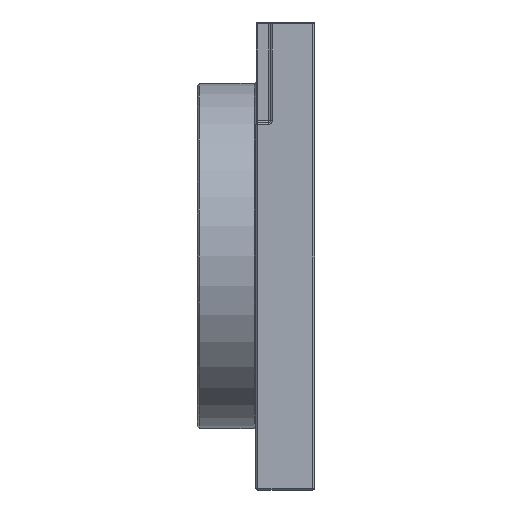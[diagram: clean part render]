
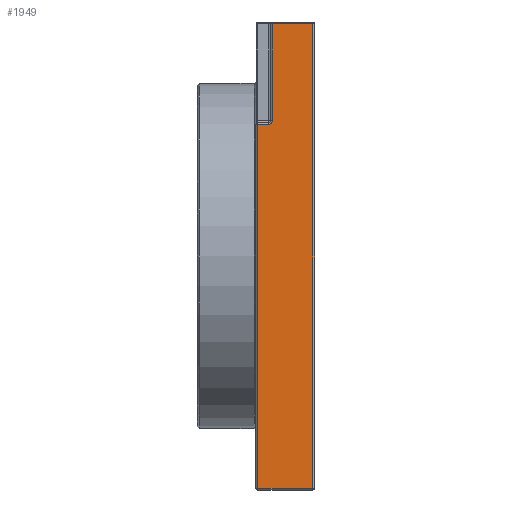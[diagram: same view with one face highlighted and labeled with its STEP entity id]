
A CAD part, left-side view. The second image highlights one B-rep face of the part: STEP entity #1949.
In plain terms, the highlighted planar face has unit normal (-1, 0, 0).
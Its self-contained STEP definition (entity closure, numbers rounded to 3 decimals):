
#82 = VERTEX_POINT ( 'NONE', #2339 ) ;
#131 = DIRECTION ( 'NONE',  ( 0., 1., 0. ) ) ;
#217 = EDGE_CURVE ( 'NONE', #2127, #4125, #434, .T. ) ;
#241 = EDGE_CURVE ( 'NONE', #3980, #1296, #790, .T. ) ;
#355 = VECTOR ( 'NONE', #3053, 1000. ) ;
#397 = FACE_OUTER_BOUND ( 'NONE', #2026, .T. ) ;
#434 = CIRCLE ( 'NONE', #2298, 0.6 ) ;
#438 = CARTESIAN_POINT ( 'NONE',  ( -40., 7.2, 39.7 ) ) ;
#631 = LINE ( 'NONE', #1731, #355 ) ;
#640 = CARTESIAN_POINT ( 'NONE',  ( -40., 9.7, -40. ) ) ;
#790 = LINE ( 'NONE', #3108, #2744 ) ;
#797 = DIRECTION ( 'NONE',  ( 1., 0., 0. ) ) ;
#937 = VERTEX_POINT ( 'NONE', #2305 ) ;
#1018 = EDGE_CURVE ( 'NONE', #1296, #2590, #631, .T. ) ;
#1296 = VERTEX_POINT ( 'NONE', #3626 ) ;
#1301 = ORIENTED_EDGE ( 'NONE', *, *, #217, .F. ) ;
#1534 = EDGE_CURVE ( 'NONE', #937, #3980, #3880, .T. ) ;
#1584 = CARTESIAN_POINT ( 'NONE',  ( -40., 7.2, 23.133 ) ) ;
#1599 = CARTESIAN_POINT ( 'NONE',  ( -40., 10., 22.533 ) ) ;
#1642 = VECTOR ( 'NONE', #2090, 1000. ) ;
#1720 = CARTESIAN_POINT ( 'NONE',  ( -40., 7.2, 22.833 ) ) ;
#1731 = CARTESIAN_POINT ( 'NONE',  ( -40., 10., 39.7 ) ) ;
#1735 = VECTOR ( 'NONE', #131, 1000. ) ;
#1915 = ORIENTED_EDGE ( 'NONE', *, *, #3158, .T. ) ;
#1944 = EDGE_CURVE ( 'NONE', #2590, #4125, #2193, .T. ) ;
#1949 = ADVANCED_FACE ( 'NONE', ( #397 ), #3984, .F. ) ;
#1958 = ORIENTED_EDGE ( 'NONE', *, *, #241, .T. ) ;
#1968 = CARTESIAN_POINT ( 'NONE',  ( -40., 7.8, 22.533 ) ) ;
#2026 = EDGE_LOOP ( 'NONE', ( #2710, #2675, #1301, #3004, #1915, #3817, #1958 ) ) ;
#2090 = DIRECTION ( 'NONE',  ( 0., 0., -1. ) ) ;
#2127 = VERTEX_POINT ( 'NONE', #1968 ) ;
#2193 = LINE ( 'NONE', #1720, #1642 ) ;
#2298 = AXIS2_PLACEMENT_3D ( 'NONE', #2786, #4123, #3452 ) ;
#2305 = CARTESIAN_POINT ( 'NONE',  ( -40., 9.7, -39.7 ) ) ;
#2311 = LINE ( 'NONE', #1599, #1735 ) ;
#2339 = CARTESIAN_POINT ( 'NONE',  ( -40., 9.7, 22.533 ) ) ;
#2590 = VERTEX_POINT ( 'NONE', #438 ) ;
#2604 = CARTESIAN_POINT ( 'NONE',  ( -40., 0.3, -39.7 ) ) ;
#2675 = ORIENTED_EDGE ( 'NONE', *, *, #1944, .T. ) ;
#2710 = ORIENTED_EDGE ( 'NONE', *, *, #1018, .T. ) ;
#2744 = VECTOR ( 'NONE', #4195, 1000. ) ;
#2786 = CARTESIAN_POINT ( 'NONE',  ( -40., 7.8, 23.133 ) ) ;
#2787 = CARTESIAN_POINT ( 'NONE',  ( -40., 10., -40. ) ) ;
#2978 = VECTOR ( 'NONE', #3207, 1000. ) ;
#2990 = VECTOR ( 'NONE', #3808, 1000. ) ;
#3004 = ORIENTED_EDGE ( 'NONE', *, *, #4436, .T. ) ;
#3053 = DIRECTION ( 'NONE',  ( 0., 1., 0. ) ) ;
#3088 = LINE ( 'NONE', #640, #2990 ) ;
#3108 = CARTESIAN_POINT ( 'NONE',  ( -40., 0.3, -40. ) ) ;
#3158 = EDGE_CURVE ( 'NONE', #82, #937, #3088, .T. ) ;
#3207 = DIRECTION ( 'NONE',  ( 0., -1., 0. ) ) ;
#3452 = DIRECTION ( 'NONE',  ( 0., 0., -1. ) ) ;
#3626 = CARTESIAN_POINT ( 'NONE',  ( -40., 0.3, 39.7 ) ) ;
#3808 = DIRECTION ( 'NONE',  ( 0., 0., -1. ) ) ;
#3817 = ORIENTED_EDGE ( 'NONE', *, *, #1534, .T. ) ;
#3880 = LINE ( 'NONE', #4289, #2978 ) ;
#3980 = VERTEX_POINT ( 'NONE', #2604 ) ;
#3984 = PLANE ( 'NONE',  #4235 ) ;
#4123 = DIRECTION ( 'NONE',  ( -1., 0., 0. ) ) ;
#4125 = VERTEX_POINT ( 'NONE', #1584 ) ;
#4195 = DIRECTION ( 'NONE',  ( 0., 0., 1. ) ) ;
#4235 = AXIS2_PLACEMENT_3D ( 'NONE', #2787, #797, #4331 ) ;
#4289 = CARTESIAN_POINT ( 'NONE',  ( -40., 10., -39.7 ) ) ;
#4331 = DIRECTION ( 'NONE',  ( 0., 0., -1. ) ) ;
#4436 = EDGE_CURVE ( 'NONE', #2127, #82, #2311, .T. ) ;
